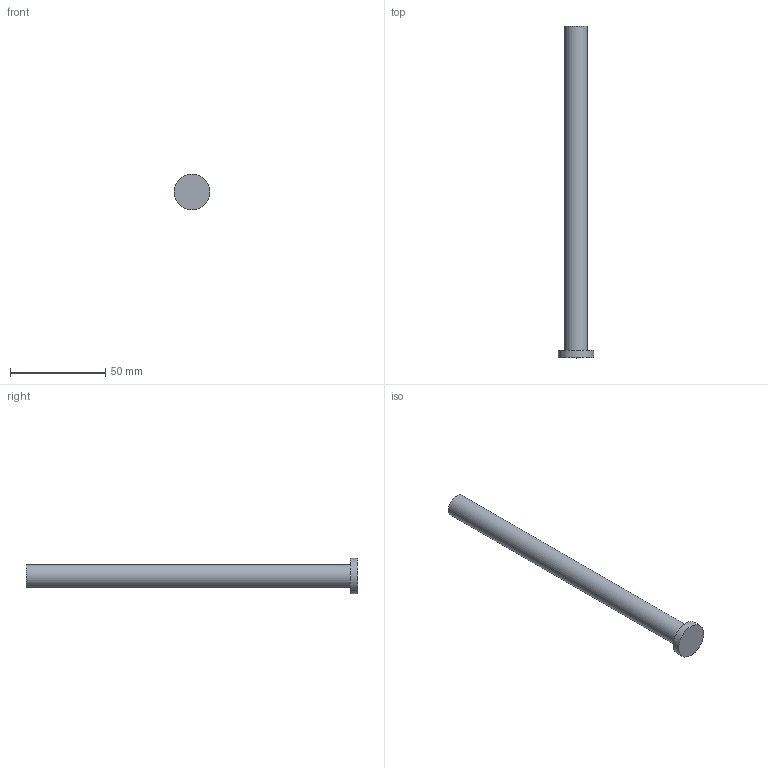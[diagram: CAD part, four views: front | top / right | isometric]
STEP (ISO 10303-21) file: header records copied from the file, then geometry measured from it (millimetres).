
FILE_DESCRIPTION(('Open CASCADE Model'),'2;1');
FILE_NAME('Open CASCADE Shape Model','2026-10-20T13:19:35',('Author'),( 'Open CASCADE'),'Open CASCADE STEP processor 7.9','Open CASCADE 7.9' ,'Unknown');
FILE_SCHEMA(('AUTOMOTIVE_DESIGN { 1 0 10303 214 1 1 1 1 }'));
Length unit declared in the file: millimetre
Products named in the file (1): Open CASCADE STEP translator 7.9 66
Bounding box: 18.6 x 174 x 18.6 mm (x, y, z)
Volume: 20313.4 mm3; surface area: 7186 mm2
Topology: 1 solids, 1 shells, 5 faces, 6 edges, 4 vertices
Faces by surface type: plane 3, cylinder 2
Full cylindrical faces by diameter (mm): 12 x1, 18.6 x1
Entity records: 192 total; most frequent: DIRECTION 34, CARTESIAN_POINT 28, ORIENTED_EDGE 12, PCURVE 12, DEFINITIONAL_REPRESENTATION 12, AXIS2_PLACEMENT_3D 10, LINE 10, VECTOR 10
